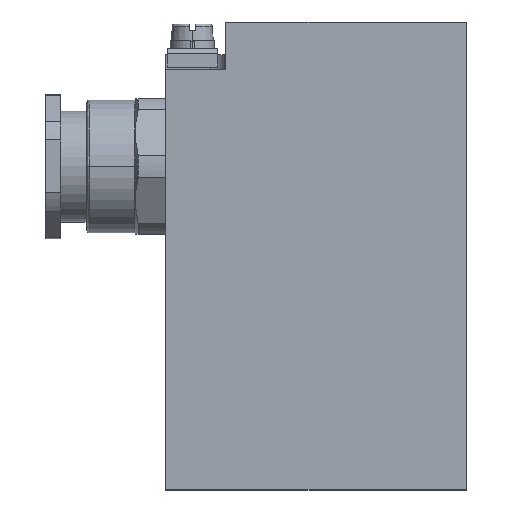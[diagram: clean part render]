
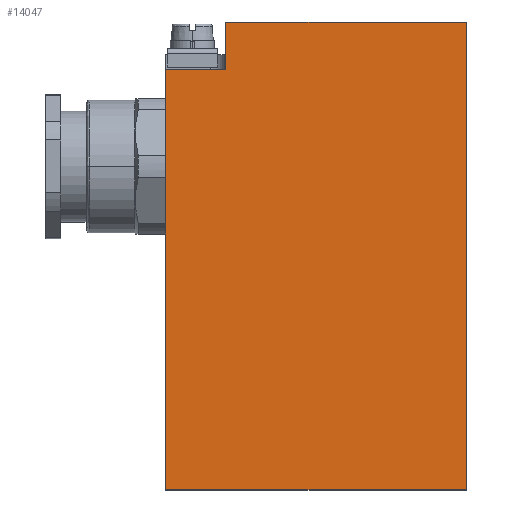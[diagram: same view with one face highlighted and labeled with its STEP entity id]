
A CAD part, top view. The second image highlights one B-rep face of the part: STEP entity #14047.
In plain terms, the highlighted planar face has unit normal (0, 0, 1).
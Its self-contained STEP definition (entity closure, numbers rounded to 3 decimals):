
#21 = DIRECTION ( 'NONE',  ( 1., 0., 0. ) ) ;
#48 = CARTESIAN_POINT ( 'NONE',  ( -60., 61.3, 22.5 ) ) ;
#1336 = PLANE ( 'NONE',  #3140 ) ;
#1344 = CARTESIAN_POINT ( 'NONE',  ( 0., -22.5, 22.5 ) ) ;
#1345 = DIRECTION ( 'NONE',  ( 0., 0., -1. ) ) ;
#1346 = DIRECTION ( 'NONE',  ( -1., 0., 0. ) ) ;
#1834 = DIRECTION ( 'NONE',  ( 0., 1., 0. ) ) ;
#1835 = DIRECTION ( 'NONE',  ( -1., 0., 0. ) ) ;
#1859 = CARTESIAN_POINT ( 'NONE',  ( 0., -22.5, 22.5 ) ) ;
#1865 = CARTESIAN_POINT ( 'NONE',  ( -48., 61.3, 22.5 ) ) ;
#2171 = DIRECTION ( 'NONE',  ( -1., 0., 0. ) ) ;
#2524 = DIRECTION ( 'NONE',  ( 0., -1., 0. ) ) ;
#2552 = CARTESIAN_POINT ( 'NONE',  ( 0., -22.5, 22.5 ) ) ;
#2634 = CARTESIAN_POINT ( 'NONE',  ( -60., -22.5, 22.5 ) ) ;
#2637 = CARTESIAN_POINT ( 'NONE',  ( 0., 70.8, 22.5 ) ) ;
#2647 = DIRECTION ( 'NONE',  ( 0., -1., 0. ) ) ;
#3140 = AXIS2_PLACEMENT_3D ( 'NONE', #1344, #1345, #1346 ) ;
#5057 = FACE_OUTER_BOUND ( 'NONE', #11211, .T. ) ;
#7518 = CARTESIAN_POINT ( 'NONE',  ( 0., 70.8, 22.5 ) ) ;
#7521 = CARTESIAN_POINT ( 'NONE',  ( 0., -22.5, 22.5 ) ) ;
#7525 = CARTESIAN_POINT ( 'NONE',  ( -60., 61.3, 22.5 ) ) ;
#7528 = CARTESIAN_POINT ( 'NONE',  ( -60., -22.5, 22.5 ) ) ;
#7538 = CARTESIAN_POINT ( 'NONE',  ( -48., 70.8, 22.5 ) ) ;
#7567 = CARTESIAN_POINT ( 'NONE',  ( -48., 61.3, 22.5 ) ) ;
#8940 = EDGE_CURVE ( 'NONE', #11110, #11136, #12137, .T. ) ;
#8976 = EDGE_CURVE ( 'NONE', #11136, #11119, #12160, .T. ) ;
#9019 = EDGE_CURVE ( 'NONE', #11107, #11113, #12278, .T. ) ;
#9141 = EDGE_CURVE ( 'NONE', #11110, #11113, #12317, .T. ) ;
#9168 = EDGE_CURVE ( 'NONE', #11105, #11107, #12354, .T. ) ;
#9259 = EDGE_CURVE ( 'NONE', #11105, #11119, #12618, .T. ) ;
#11105 = VERTEX_POINT ( 'NONE', #7518 ) ;
#11107 = VERTEX_POINT ( 'NONE', #7521 ) ;
#11110 = VERTEX_POINT ( 'NONE', #7525 ) ;
#11113 = VERTEX_POINT ( 'NONE', #7528 ) ;
#11119 = VERTEX_POINT ( 'NONE', #7538 ) ;
#11136 = VERTEX_POINT ( 'NONE', #7567 ) ;
#11211 = EDGE_LOOP ( 'NONE', ( #11291, #11413, #11292, #11414, #11293, #11415 ) ) ;
#11291 = ORIENTED_EDGE ( 'NONE', *, *, #9259, .T. ) ;
#11292 = ORIENTED_EDGE ( 'NONE', *, *, #8940, .F. ) ;
#11293 = ORIENTED_EDGE ( 'NONE', *, *, #9019, .F. ) ;
#11413 = ORIENTED_EDGE ( 'NONE', *, *, #8976, .F. ) ;
#11414 = ORIENTED_EDGE ( 'NONE', *, *, #9141, .T. ) ;
#11415 = ORIENTED_EDGE ( 'NONE', *, *, #9168, .F. ) ;
#12137 = LINE ( 'NONE', #48, #12194 ) ;
#12157 = VECTOR ( 'NONE', #1834, 1000. ) ;
#12160 = LINE ( 'NONE', #1865, #12157 ) ;
#12194 = VECTOR ( 'NONE', #21, 1000. ) ;
#12268 = VECTOR ( 'NONE', #1835, 1000. ) ;
#12278 = LINE ( 'NONE', #1859, #12268 ) ;
#12306 = VECTOR ( 'NONE', #2524, 1000. ) ;
#12314 = VECTOR ( 'NONE', #2647, 1000. ) ;
#12317 = LINE ( 'NONE', #2634, #12314 ) ;
#12354 = LINE ( 'NONE', #2552, #12306 ) ;
#12618 = LINE ( 'NONE', #2637, #12620 ) ;
#12620 = VECTOR ( 'NONE', #2171, 1000. ) ;
#14047 = ADVANCED_FACE ( 'NONE', ( #5057 ), #1336, .F. ) ;
